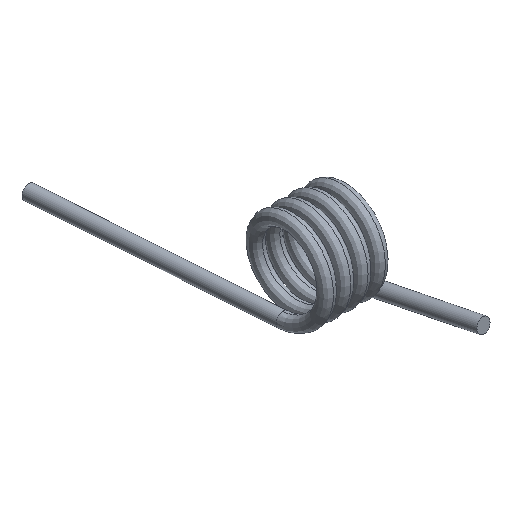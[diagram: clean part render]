
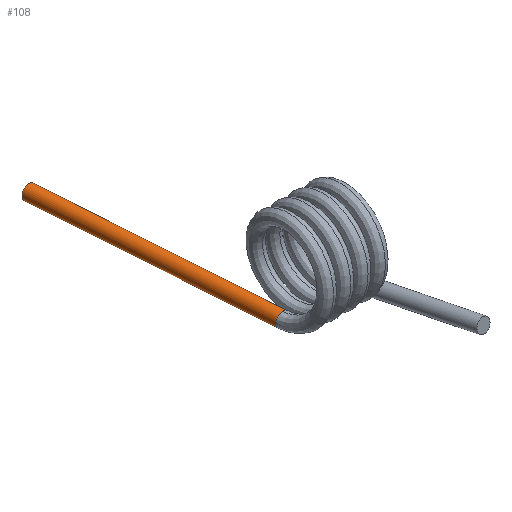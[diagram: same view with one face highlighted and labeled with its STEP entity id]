
A CAD part, isometric view. The second image highlights one B-rep face of the part: STEP entity #108.
In plain terms, the highlighted cylindrical face has radius 0.35 mm (diameter 0.7 mm), a full revolution.
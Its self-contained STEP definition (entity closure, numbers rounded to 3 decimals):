
#18=LINE('',#1385,#20);
#20=VECTOR('',#173,0.35);
#22=CYLINDRICAL_SURFACE('',#143,0.35);
#25=FACE_OUTER_BOUND('',#31,.T.);
#31=EDGE_LOOP('',(#87,#88,#89,#90,#91,#92,#93,#94));
#38=CIRCLE('',#136,0.35);
#39=CIRCLE('',#137,0.35);
#44=CIRCLE('',#144,0.35);
#45=CIRCLE('',#145,0.35);
#46=CIRCLE('',#146,0.35);
#47=CIRCLE('',#147,0.35);
#50=VERTEX_POINT('',#1105);
#51=VERTEX_POINT('',#1237);
#52=VERTEX_POINT('',#1239);
#56=VERTEX_POINT('',#1382);
#57=VERTEX_POINT('',#1384);
#58=VERTEX_POINT('',#1386);
#61=EDGE_CURVE('',#50,#51,#38,.T.);
#62=EDGE_CURVE('',#51,#52,#39,.T.);
#69=EDGE_CURVE('',#56,#56,#44,.T.);
#70=EDGE_CURVE('',#56,#57,#18,.T.);
#71=EDGE_CURVE('',#58,#57,#45,.T.);
#72=EDGE_CURVE('',#52,#58,#46,.T.);
#73=EDGE_CURVE('',#57,#50,#47,.T.);
#87=ORIENTED_EDGE('',*,*,#69,.T.);
#88=ORIENTED_EDGE('',*,*,#70,.T.);
#89=ORIENTED_EDGE('',*,*,#71,.F.);
#90=ORIENTED_EDGE('',*,*,#72,.F.);
#91=ORIENTED_EDGE('',*,*,#62,.F.);
#92=ORIENTED_EDGE('',*,*,#61,.F.);
#93=ORIENTED_EDGE('',*,*,#73,.F.);
#94=ORIENTED_EDGE('',*,*,#70,.F.);
#108=ADVANCED_FACE('',(#25),#22,.T.);
#136=AXIS2_PLACEMENT_3D('',#1238,#154,#155);
#137=AXIS2_PLACEMENT_3D('',#1240,#156,#157);
#143=AXIS2_PLACEMENT_3D('',#1381,#169,#170);
#144=AXIS2_PLACEMENT_3D('',#1383,#171,#172);
#145=AXIS2_PLACEMENT_3D('',#1387,#174,#175);
#146=AXIS2_PLACEMENT_3D('',#1388,#176,#177);
#147=AXIS2_PLACEMENT_3D('',#1389,#178,#179);
#154=DIRECTION('center_axis',(0.069,-0.998,0.));
#155=DIRECTION('ref_axis',(0.,0.,-1.));
#156=DIRECTION('center_axis',(0.069,-0.998,0.));
#157=DIRECTION('ref_axis',(0.,0.,-1.));
#169=DIRECTION('center_axis',(-0.069,0.998,0.));
#170=DIRECTION('ref_axis',(-0.998,-0.069,0.));
#171=DIRECTION('center_axis',(0.069,-0.998,0.));
#172=DIRECTION('ref_axis',(0.,0.,-1.));
#173=DIRECTION('',(0.069,-0.998,0.));
#174=DIRECTION('center_axis',(0.069,-0.998,0.));
#175=DIRECTION('ref_axis',(0.,0.,-1.));
#176=DIRECTION('center_axis',(0.069,-0.998,0.));
#177=DIRECTION('ref_axis',(0.,0.,-1.));
#178=DIRECTION('center_axis',(0.069,-0.998,0.));
#179=DIRECTION('ref_axis',(0.,0.,-1.));
#1105=CARTESIAN_POINT('',(0.,0.,-1.65));
#1237=CARTESIAN_POINT('',(-0.349,-0.024,-2.));
#1238=CARTESIAN_POINT('Origin',(0.,0.,
-2.));
#1239=CARTESIAN_POINT('',(0.,0.,-2.35));
#1240=CARTESIAN_POINT('Origin',(0.,0.,
-2.));
#1381=CARTESIAN_POINT('Origin',(0.,0.,
-2.));
#1382=CARTESIAN_POINT('',(-0.48,11.996,-2.));
#1383=CARTESIAN_POINT('Origin',(-0.829,11.971,-2.));
#1384=CARTESIAN_POINT('',(0.349,0.024,-2.));
#1385=CARTESIAN_POINT('',(0.349,0.024,-2.));
#1386=CARTESIAN_POINT('',(0.335,0.023,-2.098));
#1387=CARTESIAN_POINT('Origin',(0.,0.,
-2.));
#1388=CARTESIAN_POINT('Origin',(0.,0.,
-2.));
#1389=CARTESIAN_POINT('Origin',(0.,0.,
-2.));
